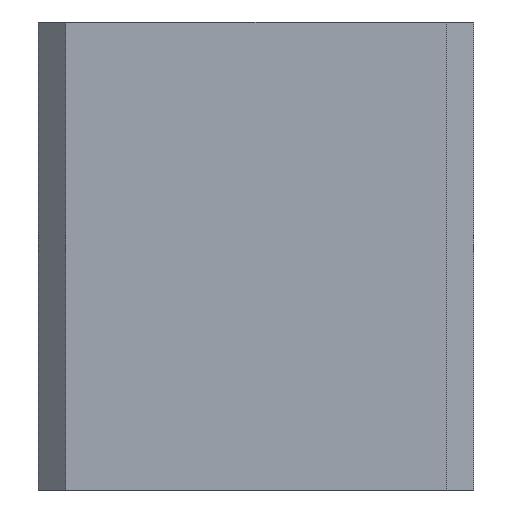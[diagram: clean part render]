
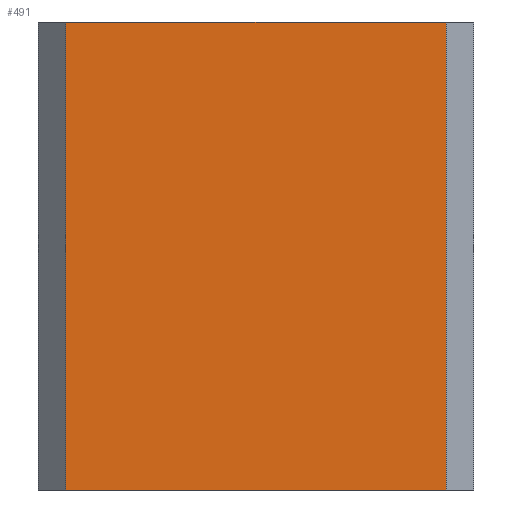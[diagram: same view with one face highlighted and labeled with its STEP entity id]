
A CAD part, front view. The second image highlights one B-rep face of the part: STEP entity #491.
In plain terms, the highlighted planar face has unit normal (0, -1, 0).
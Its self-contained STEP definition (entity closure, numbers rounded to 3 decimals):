
#464=AXIS2_PLACEMENT_3D('Plane Axis2P3D',#461,#462,#463) ;
#439=CARTESIAN_POINT('Vertex',(-35.,-58.,-20.)) ;
#442=CARTESIAN_POINT('Line Origine',(-35.,-58.,23.)) ;
#446=CARTESIAN_POINT('Vertex',(-35.,-58.,66.)) ;
#461=CARTESIAN_POINT('Axis2P3D Location',(40.,-58.,0.)) ;
#466=CARTESIAN_POINT('Line Origine',(35.,-58.,23.)) ;
#470=CARTESIAN_POINT('Vertex',(35.,-58.,-20.)) ;
#472=CARTESIAN_POINT('Vertex',(35.,-58.,66.)) ;
#475=CARTESIAN_POINT('Line Origine',(0.,-58.,66.)) ;
#480=CARTESIAN_POINT('Line Origine',(0.,-58.,-20.)) ;
#443=DIRECTION('Vector Direction',(0.,0.,1.)) ;
#462=DIRECTION('Axis2P3D Direction',(0.,1.,-0.)) ;
#463=DIRECTION('Axis2P3D XDirection',(-1.,0.,0.)) ;
#467=DIRECTION('Vector Direction',(0.,0.,1.)) ;
#476=DIRECTION('Vector Direction',(-1.,0.,0.)) ;
#481=DIRECTION('Vector Direction',(1.,0.,0.)) ;
#444=VECTOR('Line Direction',#443,1.) ;
#468=VECTOR('Line Direction',#467,1.) ;
#477=VECTOR('Line Direction',#476,1.) ;
#482=VECTOR('Line Direction',#481,1.) ;
#486=ORIENTED_EDGE('',*,*,#474,.T.) ;
#487=ORIENTED_EDGE('',*,*,#479,.F.) ;
#488=ORIENTED_EDGE('',*,*,#448,.F.) ;
#489=ORIENTED_EDGE('',*,*,#484,.F.) ;
#491=ADVANCED_FACE('\X2\96F64EF651E04F554F53\X0\',(#490),#465,.F.) ;
#448=EDGE_CURVE('',#440,#447,#445,.T.) ;
#474=EDGE_CURVE('',#471,#473,#469,.T.) ;
#479=EDGE_CURVE('',#447,#473,#478,.F.) ;
#484=EDGE_CURVE('',#471,#440,#483,.F.) ;
#485=EDGE_LOOP('',(#486,#487,#488,#489)) ;
#490=FACE_OUTER_BOUND('',#485,.T.) ;
#445=LINE('Line',#442,#444) ;
#469=LINE('Line',#466,#468) ;
#478=LINE('Line',#475,#477) ;
#483=LINE('Line',#480,#482) ;
#465=PLANE('',#464) ;
#440=VERTEX_POINT('',#439) ;
#447=VERTEX_POINT('',#446) ;
#471=VERTEX_POINT('',#470) ;
#473=VERTEX_POINT('',#472) ;
